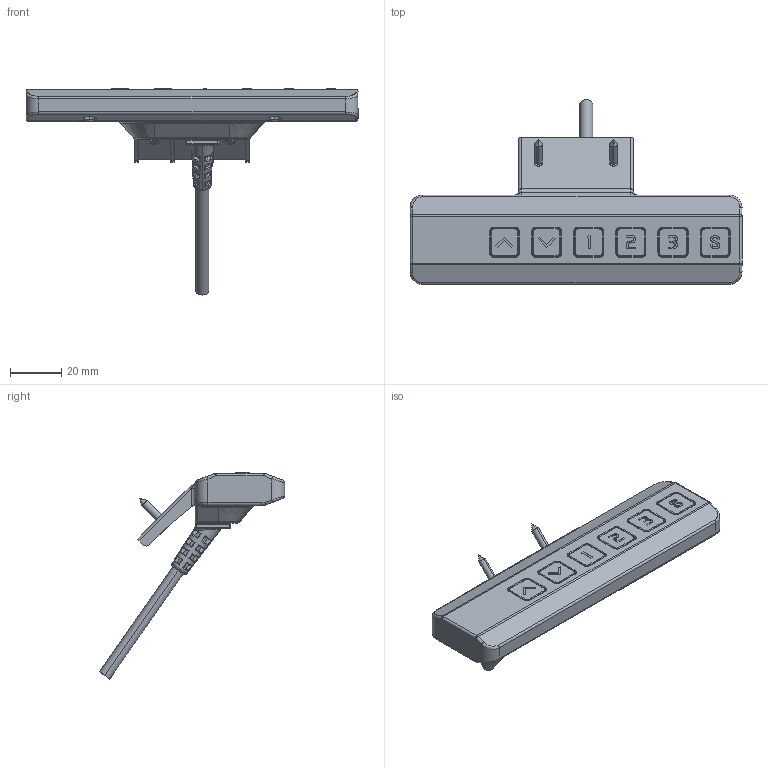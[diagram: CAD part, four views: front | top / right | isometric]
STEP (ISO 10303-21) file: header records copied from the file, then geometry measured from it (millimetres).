
FILE_DESCRIPTION((''),'2;1');
FILE_NAME('MT-SJ-SKQ_ASM_ASM','2019-09-20T',('USER'),(''),'PRO/ENGINEER BY PARAMETRIC TECHNOLOGY CORPORATION, 2016240','PRO/ENGINEER BY PARAMETRIC TECHNOLOGY CORPORATION, 2016240','');
FILE_SCHEMA(('CONFIG_CONTROL_DESIGN'));
Length unit declared in the file: millimetre
Products named in the file (1): MT-SJ-SKQ_ASM_ASM
Bounding box: 130 x 72.51 x 80.67 mm (x, y, z)
Volume: 31225 mm3; surface area: 33538.5 mm2
Topology: 1 solids, 9 shells, 1381 faces, 3839 edges, 2511 vertices
Faces by surface type: plane 720, cylinder 401, torus 123, extrusion 66, bspline 61, cone 10
Entity records: 49530 total; most frequent: CARTESIAN_POINT 14622, ORIENTED_EDGE 7670, DIRECTION 6720, EDGE_CURVE 3835, VERTEX_POINT 2511, VECTOR 2384, LINE 2318, AXIS2_PLACEMENT_3D 2168
